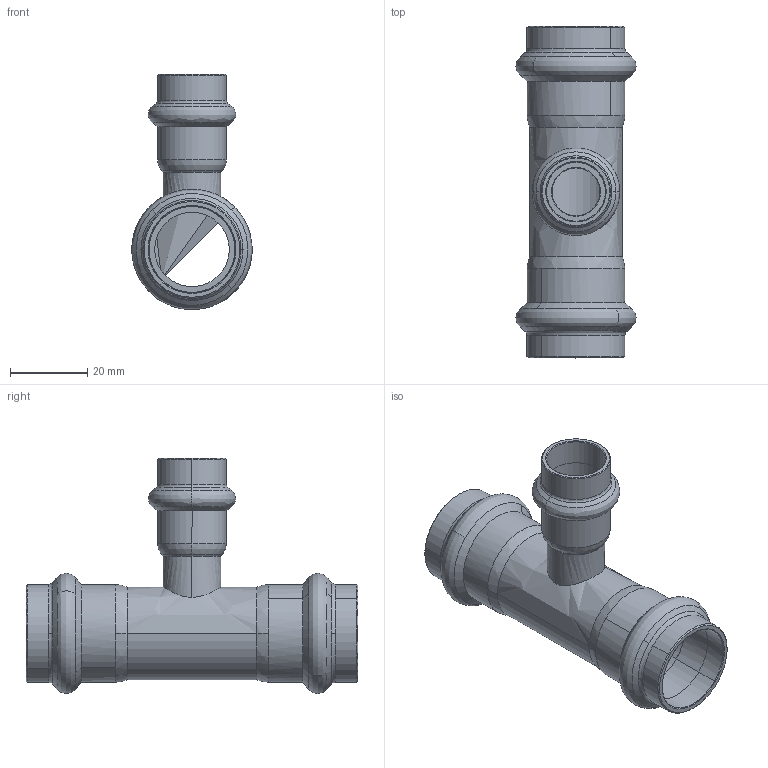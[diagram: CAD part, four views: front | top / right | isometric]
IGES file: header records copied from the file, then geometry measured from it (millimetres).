
Start section: Elysium IGES Interface
Global section: file name: C:\Users\Wallenburg\Desktop\3d modellen sudo\S-Pr VP\SP6130RV\6130RVW221522.igs; native system: CoCreate Modeling 17.00A  17-Jun-2010; preprocessor: CoCreate IGES_3D V2.2; author: Unknown; organization: Unknown; date: 20130117.131813; units: millimetre
Bounding box: 31.19 x 86.01 x 60.96 mm (x, y, z)
Surface area: 17270.8 mm2 (no closed solid volume)
Topology: 0 solids, 1 shells, 124 faces, 289 edges, 173 vertices
Faces by surface type: bspline 124
